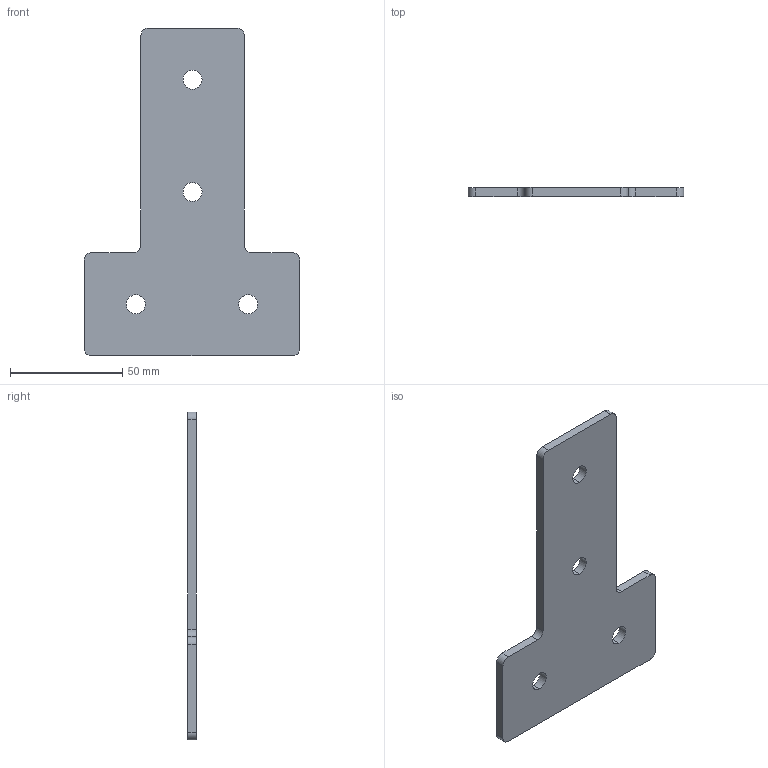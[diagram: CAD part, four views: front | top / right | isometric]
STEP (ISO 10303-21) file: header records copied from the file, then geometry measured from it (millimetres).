
FILE_DESCRIPTION (( 'STEP AP203' ), '1' );
FILE_NAME ('Ò-4-50.STEP', '2017-03-22T10:12:51', ( 'RosInstal-MKM' ), ( '' ), 'SwSTEP 2.0', 'SolidWorks 2014', '' );
FILE_SCHEMA (( 'CONFIG_CONTROL_DESIGN' ));
Length unit declared in the file: millimetre
Products named in the file (1): ﾒ-4-50
Bounding box: 96 x 4 x 146 mm (x, y, z)
Volume: 35117.2 mm3; surface area: 19875.6 mm2
Topology: 1 solids, 1 shells, 26 faces, 72 edges, 48 vertices
Faces by surface type: cylinder 16, plane 10
Entity records: 941 total; most frequent: DIRECTION 158, CARTESIAN_POINT 147, ORIENTED_EDGE 144, EDGE_CURVE 72, AXIS2_PLACEMENT_3D 59, VERTEX_POINT 48, LINE 40, VECTOR 40
